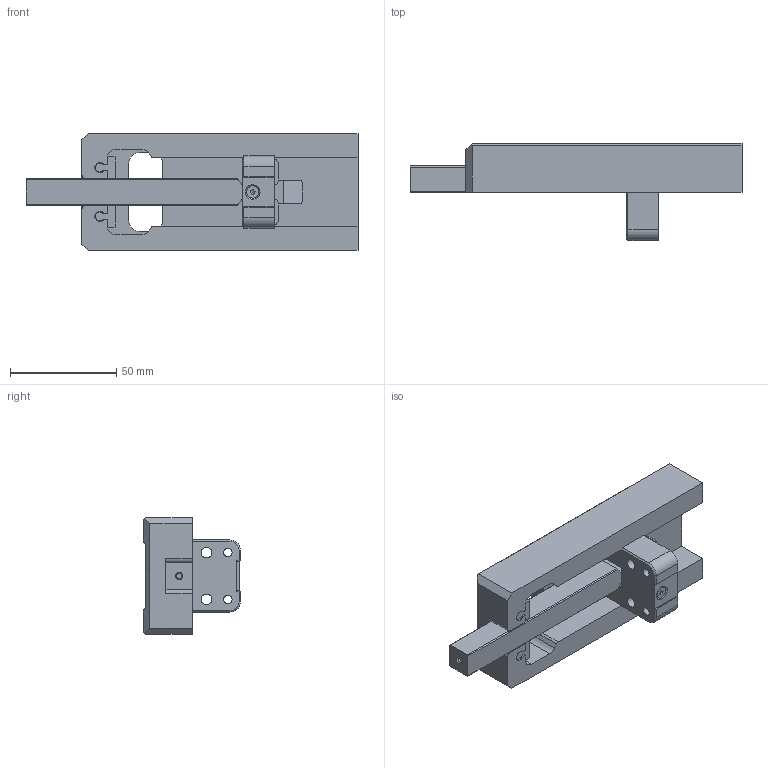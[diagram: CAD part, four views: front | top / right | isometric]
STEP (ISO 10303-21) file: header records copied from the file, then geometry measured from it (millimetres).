
FILE_DESCRIPTION (( 'STEP AP203' ), '1' );
FILE_NAME ('SA-60-130-00.STEP', '2015-06-16T04:55:39', ( '' ), ( '' ), 'SwSTEP 2.0', 'SolidWorks 2015', '' );
FILE_SCHEMA (( 'CONFIG_CONTROL_DESIGN' ));
Length unit declared in the file: millimetre
Products named in the file (2): SA-60-130-00
Bounding box: 156.32 x 45.7 x 55 mm (x, y, z)
Surface area: 37438.8 mm2 (no closed solid volume)
Topology: 0 solids, 9 shells, 142 faces, 501 edges, 355 vertices
Faces by surface type: plane 100, cylinder 33, cone 9
Full cylindrical faces by diameter (mm): 1.3 x2, 2.5 x1, 4 x2, 4.2 x2, 5 x2, 5.7 x1
Entity records: 5403 total; most frequent: CARTESIAN_POINT 1015, DIRECTION 863, ORIENTED_EDGE 807, EDGE_CURVE 483, VECTOR 367, LINE 367, VERTEX_POINT 352, AXIS2_PLACEMENT_3D 248
